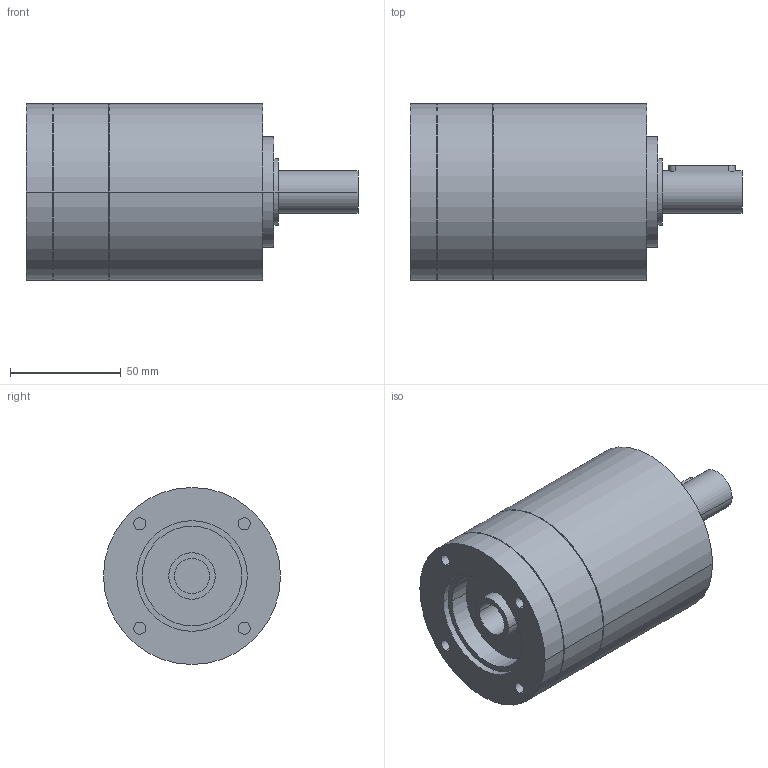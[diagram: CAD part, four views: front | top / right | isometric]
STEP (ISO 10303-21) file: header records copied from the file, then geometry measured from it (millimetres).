
FILE_DESCRIPTION(('CoCreate Modeling STEP Export'),'2;1');
FILE_NAME('GPR100_ig-3-4-5-6_19_B14_15.87_P29.stp','2014-08-26T10:07:55',(''),(''),'CoCreate Modeling STEP processor for AP214 (Solid Model)','CoCreate Modeling 16.00C 25-Feb-2009 (C) Parametric Technology GmbH','');
FILE_SCHEMA(('AUTOMOTIVE_DESIGN { 1 0 10303 214 1 1 1 1 }'));
Length unit declared in the file: millimetre
Products named in the file (2): GPR100_ig-3-4-5-6_19_B14_15.87_P29
Assembly tree (1 placements, depth 2):
  GPR100_ig-3-4-5-6_19_B14_15.87_P29
    GPR100_ig-3-4-5-6_19_B14_15.87_P29
Bounding box: 150 x 80 x 80 mm (x, y, z)
Volume: 531163.9 mm3; surface area: 46797.5 mm2
Topology: 1 solids, 1 shells, 68 faces, 166 edges, 116 vertices
Faces by surface type: cylinder 40, plane 22, cone 6
Entity records: 1711 total; most frequent: ORIENTED_EDGE 328, CARTESIAN_POINT 318, DIRECTION 224, EDGE_CURVE 164, VERTEX_POINT 116, AXIS2_PLACEMENT_3D 86, EDGE_LOOP 86, FACE_OUTER_BOUND 68
